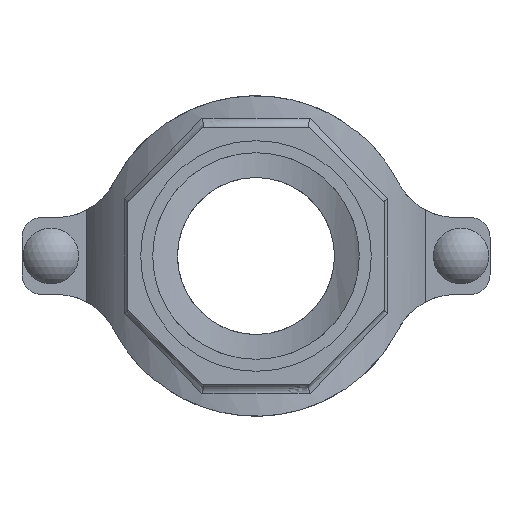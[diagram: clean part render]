
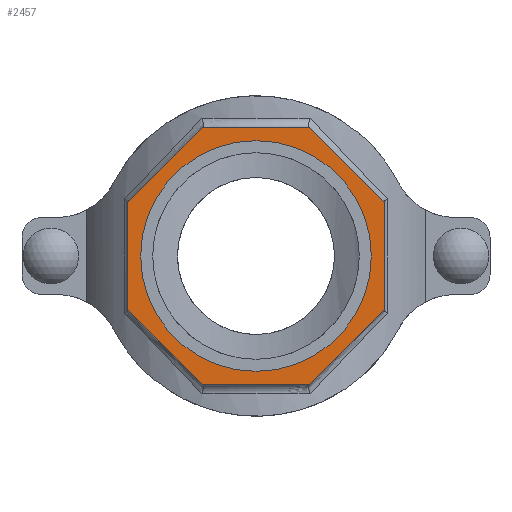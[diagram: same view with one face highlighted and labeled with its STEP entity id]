
A CAD part, front view. The second image highlights one B-rep face of the part: STEP entity #2457.
In plain terms, the highlighted planar face has unit normal (0, -1, 0) as drawn and (0, 1, 0) by its records, which use the part's own axes.
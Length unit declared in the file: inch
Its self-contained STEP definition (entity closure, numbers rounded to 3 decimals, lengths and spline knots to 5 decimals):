
#178=FACE_BOUND('',#441,.T.);
#293=FACE_OUTER_BOUND('',#440,.T.);
#440=EDGE_LOOP('',(#2058,#2059,#2060,#2061,#2062,#2063,#2064,#2065));
#441=EDGE_LOOP('',(#2066));
#576=LINE('',#4633,#758);
#579=LINE('',#4638,#761);
#581=LINE('',#4642,#763);
#583=LINE('',#4646,#765);
#617=LINE('',#5053,#799);
#619=LINE('',#5057,#801);
#621=LINE('',#5061,#803);
#623=LINE('',#5064,#805);
#758=VECTOR('',#3180,0.3937);
#761=VECTOR('',#3185,0.3937);
#763=VECTOR('',#3189,0.3937);
#765=VECTOR('',#3193,0.3937);
#799=VECTOR('',#3307,0.3937);
#801=VECTOR('',#3311,0.3937);
#803=VECTOR('',#3315,0.3937);
#805=VECTOR('',#3319,0.3937);
#887=CIRCLE('',#2710,2.25);
#1065=VERTEX_POINT('',#4630);
#1066=VERTEX_POINT('',#4632);
#1067=VERTEX_POINT('',#4636);
#1068=VERTEX_POINT('',#4640);
#1069=VERTEX_POINT('',#4644);
#1096=VERTEX_POINT('',#4878);
#1120=VERTEX_POINT('',#5052);
#1121=VERTEX_POINT('',#5056);
#1122=VERTEX_POINT('',#5060);
#1366=EDGE_CURVE('',#1066,#1065,#576,.T.);
#1369=EDGE_CURVE('',#1065,#1067,#579,.T.);
#1371=EDGE_CURVE('',#1067,#1068,#581,.T.);
#1373=EDGE_CURVE('',#1068,#1069,#583,.T.);
#1409=EDGE_CURVE('',#1096,#1096,#887,.T.);
#1441=EDGE_CURVE('',#1120,#1066,#617,.T.);
#1443=EDGE_CURVE('',#1121,#1120,#619,.T.);
#1445=EDGE_CURVE('',#1122,#1121,#621,.T.);
#1447=EDGE_CURVE('',#1069,#1122,#623,.T.);
#2058=ORIENTED_EDGE('',*,*,#1447,.T.);
#2059=ORIENTED_EDGE('',*,*,#1445,.T.);
#2060=ORIENTED_EDGE('',*,*,#1443,.T.);
#2061=ORIENTED_EDGE('',*,*,#1441,.T.);
#2062=ORIENTED_EDGE('',*,*,#1366,.T.);
#2063=ORIENTED_EDGE('',*,*,#1369,.T.);
#2064=ORIENTED_EDGE('',*,*,#1371,.T.);
#2065=ORIENTED_EDGE('',*,*,#1373,.T.);
#2066=ORIENTED_EDGE('',*,*,#1409,.T.);
#2206=PLANE('',#2733);
#2457=ADVANCED_FACE('',(#293,#178),#2206,.T.);
#2710=AXIS2_PLACEMENT_3D('',#4879,#3253,#3254);
#2733=AXIS2_PLACEMENT_3D('',#5065,#3320,#3321);
#3180=DIRECTION('',(0.,0.,1.));
#3185=DIRECTION('',(0.707,0.,0.707));
#3189=DIRECTION('',(1.,0.,0.));
#3193=DIRECTION('',(0.707,0.,-0.707));
#3253=DIRECTION('center_axis',(0.,-1.,0.));
#3254=DIRECTION('ref_axis',(-1.,0.,0.));
#3307=DIRECTION('',(-0.707,0.,0.707));
#3311=DIRECTION('',(-1.,0.,0.));
#3315=DIRECTION('',(-0.707,0.,-0.707));
#3319=DIRECTION('',(0.,0.,-1.));
#3320=DIRECTION('center_axis',(0.,1.,0.));
#3321=DIRECTION('ref_axis',(0.,0.,1.));
#4630=CARTESIAN_POINT('',(-2.5,5.75,1.03553));
#4632=CARTESIAN_POINT('',(-2.5,5.75,-1.03553));
#4633=CARTESIAN_POINT('',(-2.5,5.75,1.03553));
#4636=CARTESIAN_POINT('',(-1.03553,5.75,2.5));
#4638=CARTESIAN_POINT('',(-1.03553,5.75,2.5));
#4640=CARTESIAN_POINT('',(1.03553,5.75,2.5));
#4642=CARTESIAN_POINT('',(1.03553,5.75,2.5));
#4644=CARTESIAN_POINT('',(2.5,5.75,1.03553));
#4646=CARTESIAN_POINT('',(2.5,5.75,1.03553));
#4878=CARTESIAN_POINT('',(2.25,5.75,0.));
#4879=CARTESIAN_POINT('Origin',(0.,5.75,0.));
#5052=CARTESIAN_POINT('',(-1.03553,5.75,-2.5));
#5053=CARTESIAN_POINT('',(-2.5,5.75,-1.03553));
#5056=CARTESIAN_POINT('',(1.03553,5.75,-2.5));
#5057=CARTESIAN_POINT('',(-1.03553,5.75,-2.5));
#5060=CARTESIAN_POINT('',(2.5,5.75,-1.03553));
#5061=CARTESIAN_POINT('',(1.03553,5.75,-2.5));
#5064=CARTESIAN_POINT('',(2.5,5.75,-1.03553));
#5065=CARTESIAN_POINT('Origin',(0.,5.75,0.));
